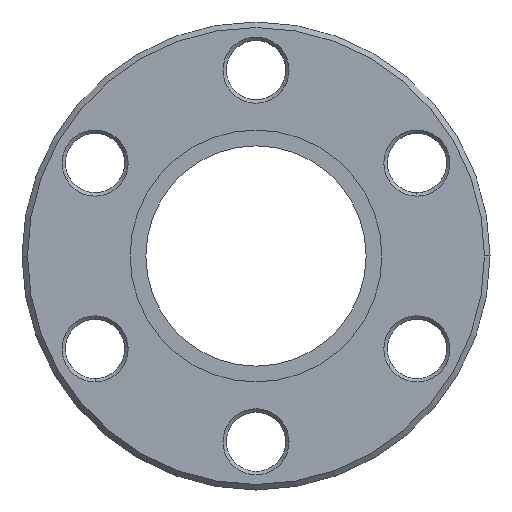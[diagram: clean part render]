
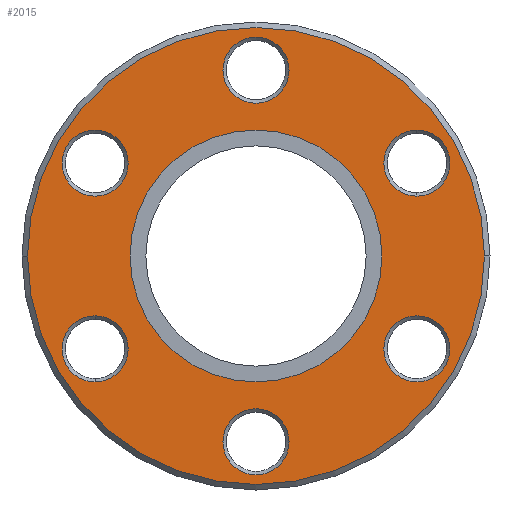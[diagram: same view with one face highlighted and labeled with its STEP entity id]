
A CAD part, left-side view. The second image highlights one B-rep face of the part: STEP entity #2015.
In plain terms, the highlighted planar face has unit normal (-1, 0, 0).
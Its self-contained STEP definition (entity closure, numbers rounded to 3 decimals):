
#222=CARTESIAN_POINT('',(0.0,9.15,0.0));
#223=VERTEX_POINT('',#222);
#232=CARTESIAN_POINT('',(0.0,-9.15,0.));
#233=VERTEX_POINT('',#232);
#234=CARTESIAN_POINT('',(0.0,0.,0.0));
#235=DIRECTION('',(1.0,0.0,0.0));
#236=DIRECTION('',(0.0,1.0,0.0));
#237=AXIS2_PLACEMENT_3D('',#234,#235,#236);
#238=CIRCLE('',#237,9.15);
#239=EDGE_CURVE('',#233,#223,#238,.T.);
#512=CARTESIAN_POINT('',(0.0,-16.6,0.));
#513=VERTEX_POINT('',#512);
#522=CARTESIAN_POINT('',(0.0,16.6,0.));
#523=VERTEX_POINT('',#522);
#524=CARTESIAN_POINT('',(0.0,0.,0.0));
#525=DIRECTION('',(1.0,0.0,0.0));
#526=DIRECTION('',(0.0,-1.0,0.0));
#527=AXIS2_PLACEMENT_3D('',#524,#525,#526);
#528=CIRCLE('',#527,16.6);
#529=EDGE_CURVE('',#513,#523,#528,.T.);
#731=CARTESIAN_POINT('',(0.0,11.691,-9.15));
#732=VERTEX_POINT('',#731);
#746=CARTESIAN_POINT('',(0.0,11.691,-4.35));
#747=VERTEX_POINT('',#746);
#754=CARTESIAN_POINT('',(0.0,11.691,-6.75));
#755=DIRECTION('',(-1.0,0.0,0.0));
#756=DIRECTION('',(0.0,0.0,-1.0));
#757=AXIS2_PLACEMENT_3D('',#754,#755,#756);
#758=CIRCLE('',#757,2.4);
#759=EDGE_CURVE('',#747,#732,#758,.T.);
#870=CARTESIAN_POINT('',(0.0,13.769,5.55));
#871=VERTEX_POINT('',#870);
#885=CARTESIAN_POINT('',(0.0,9.612,7.95));
#886=VERTEX_POINT('',#885);
#893=CARTESIAN_POINT('',(0.0,11.691,6.75));
#894=DIRECTION('',(-1.,0.0,0.0));
#895=DIRECTION('',(0.0,0.866,-0.5));
#896=AXIS2_PLACEMENT_3D('',#893,#894,#895);
#897=CIRCLE('',#896,2.4);
#898=EDGE_CURVE('',#886,#871,#897,.T.);
#1009=CARTESIAN_POINT('',(0.0,2.078,14.7));
#1010=VERTEX_POINT('',#1009);
#1024=CARTESIAN_POINT('',(0.0,-2.079,12.3));
#1025=VERTEX_POINT('',#1024);
#1032=CARTESIAN_POINT('',(0.0,0.,13.5));
#1033=DIRECTION('',(-1.0,0.0,0.0));
#1034=DIRECTION('',(0.0,0.866,0.5));
#1035=AXIS2_PLACEMENT_3D('',#1032,#1033,#1034);
#1036=CIRCLE('',#1035,2.4);
#1037=EDGE_CURVE('',#1025,#1010,#1036,.T.);
#1148=CARTESIAN_POINT('',(0.0,-11.692,9.15));
#1149=VERTEX_POINT('',#1148);
#1163=CARTESIAN_POINT('',(0.0,-11.692,4.35));
#1164=VERTEX_POINT('',#1163);
#1171=CARTESIAN_POINT('',(0.0,-11.692,6.75));
#1172=DIRECTION('',(-1.0,0.0,0.0));
#1173=DIRECTION('',(0.0,0.0,1.0));
#1174=AXIS2_PLACEMENT_3D('',#1171,#1172,#1173);
#1175=CIRCLE('',#1174,2.4);
#1176=EDGE_CURVE('',#1164,#1149,#1175,.T.);
#1287=CARTESIAN_POINT('',(0.0,-13.77,-5.55));
#1288=VERTEX_POINT('',#1287);
#1302=CARTESIAN_POINT('',(0.0,-9.613,-7.95));
#1303=VERTEX_POINT('',#1302);
#1310=CARTESIAN_POINT('',(0.0,-11.692,-6.75));
#1311=DIRECTION('',(-1.,0.0,0.0));
#1312=DIRECTION('',(0.0,-0.866,0.5));
#1313=AXIS2_PLACEMENT_3D('',#1310,#1311,#1312);
#1314=CIRCLE('',#1313,2.4);
#1315=EDGE_CURVE('',#1303,#1288,#1314,.T.);
#1426=CARTESIAN_POINT('',(0.0,-2.079,-14.7));
#1427=VERTEX_POINT('',#1426);
#1441=CARTESIAN_POINT('',(0.0,2.078,-12.3));
#1442=VERTEX_POINT('',#1441);
#1449=CARTESIAN_POINT('',(0.0,0.,-13.5));
#1450=DIRECTION('',(-1.,0.0,0.0));
#1451=DIRECTION('',(0.0,-0.866,-0.5));
#1452=AXIS2_PLACEMENT_3D('',#1449,#1450,#1451);
#1453=CIRCLE('',#1452,2.4);
#1454=EDGE_CURVE('',#1442,#1427,#1453,.T.);
#1891=CARTESIAN_POINT('',(0.0,0.,-13.5));
#1892=DIRECTION('',(-1.,0.0,0.0));
#1893=DIRECTION('',(0.0,-0.866,-0.5));
#1894=AXIS2_PLACEMENT_3D('',#1891,#1892,#1893);
#1895=CIRCLE('',#1894,2.4);
#1896=EDGE_CURVE('',#1427,#1442,#1895,.T.);
#1936=CARTESIAN_POINT('',(0.0,13.075,0.0));
#1937=DIRECTION('',(-1.0,0.0,0.0));
#1938=DIRECTION('',(0.0,0.0,1.0));
#1939=AXIS2_PLACEMENT_3D('',#1936,#1937,#1938);
#1940=PLANE('',#1939);
#1941=CARTESIAN_POINT('',(0.0,0.,0.0));
#1942=DIRECTION('',(1.0,0.0,0.0));
#1943=DIRECTION('',(0.0,-1.0,0.0));
#1944=AXIS2_PLACEMENT_3D('',#1941,#1942,#1943);
#1945=CIRCLE('',#1944,16.6);
#1946=EDGE_CURVE('',#523,#513,#1945,.T.);
#1947=ORIENTED_EDGE('',*,*,#1946,.F.);
#1948=ORIENTED_EDGE('',*,*,#529,.F.);
#1949=EDGE_LOOP('',(#1947,#1948));
#1950=FACE_OUTER_BOUND('',#1949,.T.);
#1951=ORIENTED_EDGE('',*,*,#1315,.F.);
#1952=CARTESIAN_POINT('',(0.0,-11.692,-6.75));
#1953=DIRECTION('',(-1.,0.0,0.0));
#1954=DIRECTION('',(0.0,-0.866,0.5));
#1955=AXIS2_PLACEMENT_3D('',#1952,#1953,#1954);
#1956=CIRCLE('',#1955,2.4);
#1957=EDGE_CURVE('',#1288,#1303,#1956,.T.);
#1958=ORIENTED_EDGE('',*,*,#1957,.F.);
#1959=EDGE_LOOP('',(#1951,#1958));
#1960=FACE_BOUND('',#1959,.T.);
#1961=ORIENTED_EDGE('',*,*,#1037,.F.);
#1962=CARTESIAN_POINT('',(0.0,0.,13.5));
#1963=DIRECTION('',(-1.0,0.0,0.0));
#1964=DIRECTION('',(0.0,0.866,0.5));
#1965=AXIS2_PLACEMENT_3D('',#1962,#1963,#1964);
#1966=CIRCLE('',#1965,2.4);
#1967=EDGE_CURVE('',#1010,#1025,#1966,.T.);
#1968=ORIENTED_EDGE('',*,*,#1967,.F.);
#1969=EDGE_LOOP('',(#1961,#1968));
#1970=FACE_BOUND('',#1969,.T.);
#1971=ORIENTED_EDGE('',*,*,#759,.F.);
#1972=CARTESIAN_POINT('',(0.0,11.691,-6.75));
#1973=DIRECTION('',(-1.0,0.0,0.0));
#1974=DIRECTION('',(0.0,0.0,-1.0));
#1975=AXIS2_PLACEMENT_3D('',#1972,#1973,#1974);
#1976=CIRCLE('',#1975,2.4);
#1977=EDGE_CURVE('',#732,#747,#1976,.T.);
#1978=ORIENTED_EDGE('',*,*,#1977,.F.);
#1979=EDGE_LOOP('',(#1971,#1978));
#1980=FACE_BOUND('',#1979,.T.);
#1981=CARTESIAN_POINT('',(0.0,0.,0.0));
#1982=DIRECTION('',(1.0,0.0,0.0));
#1983=DIRECTION('',(0.0,1.0,0.0));
#1984=AXIS2_PLACEMENT_3D('',#1981,#1982,#1983);
#1985=CIRCLE('',#1984,9.15);
#1986=EDGE_CURVE('',#223,#233,#1985,.T.);
#1987=ORIENTED_EDGE('',*,*,#1986,.T.);
#1988=ORIENTED_EDGE('',*,*,#239,.T.);
#1989=EDGE_LOOP('',(#1987,#1988));
#1990=FACE_BOUND('',#1989,.T.);
#1991=ORIENTED_EDGE('',*,*,#898,.F.);
#1992=CARTESIAN_POINT('',(0.0,11.691,6.75));
#1993=DIRECTION('',(-1.,0.0,0.0));
#1994=DIRECTION('',(0.0,0.866,-0.5));
#1995=AXIS2_PLACEMENT_3D('',#1992,#1993,#1994);
#1996=CIRCLE('',#1995,2.4);
#1997=EDGE_CURVE('',#871,#886,#1996,.T.);
#1998=ORIENTED_EDGE('',*,*,#1997,.F.);
#1999=EDGE_LOOP('',(#1991,#1998));
#2000=FACE_BOUND('',#1999,.T.);
#2001=ORIENTED_EDGE('',*,*,#1176,.F.);
#2002=CARTESIAN_POINT('',(0.0,-11.692,6.75));
#2003=DIRECTION('',(-1.0,0.0,0.0));
#2004=DIRECTION('',(0.0,0.0,1.0));
#2005=AXIS2_PLACEMENT_3D('',#2002,#2003,#2004);
#2006=CIRCLE('',#2005,2.4);
#2007=EDGE_CURVE('',#1149,#1164,#2006,.T.);
#2008=ORIENTED_EDGE('',*,*,#2007,.F.);
#2009=EDGE_LOOP('',(#2001,#2008));
#2010=FACE_BOUND('',#2009,.T.);
#2011=ORIENTED_EDGE('',*,*,#1454,.F.);
#2012=ORIENTED_EDGE('',*,*,#1896,.F.);
#2013=EDGE_LOOP('',(#2011,#2012));
#2014=FACE_BOUND('',#2013,.T.);
#2015=ADVANCED_FACE('',(#1950,#1960,#1970,#1980,#1990,#2000,#2010,#2014),#1940,.T.);
